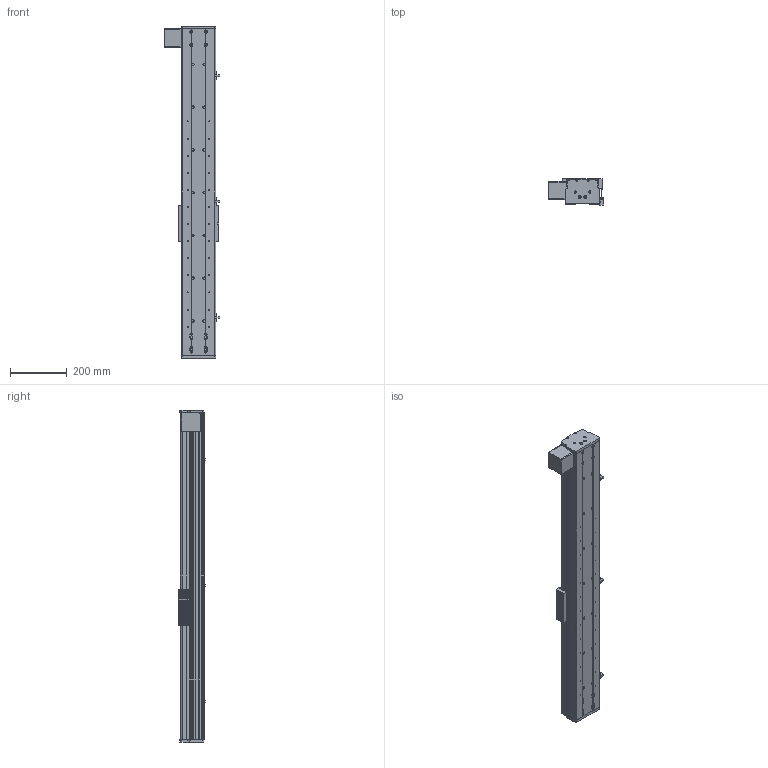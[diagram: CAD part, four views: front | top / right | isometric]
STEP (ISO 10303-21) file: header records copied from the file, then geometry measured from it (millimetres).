
FILE_DESCRIPTION (( 'STEP AP214' ), '1' );
FILE_NAME ('CF120B-D-850-FW.STEP', '2020-01-15T07:29:16', ( '微软用户' ), ( '微软中国' ), 'SwSTEP 2.0', 'SolidWorks 2016', '' );
FILE_SCHEMA (( 'AUTOMOTIVE_DESIGN' ));
Length unit declared in the file: millimetre
Products named in the file (14): EGR15絳寢-850; EGH-15-CABZnew; CF120B臏倰第-850; CF120B-D-850-FW; 嫖萇羲壽; 75-86-95癹弇羲壽覜茼え; 6060-3232源臏奪-植雄釱; 6060-3232源臏奪-萇儂釱; 6060-3232源臏奪-翋雄釱; CF120B耜啣萇儂傷; CF120B耜啣; CF120B裔啣-850; CF120B賑雄啣; CF120-B賑雄輸
Assembly tree (19 placements, depth 2):
  CF120B-D-850-FW
    CF120B臏倰第-850
    EGH-15-CABZnew  x4
    EGR15絳寢-850  x2
    CF120-B賑雄輸
    CF120B賑雄啣
    CF120B裔啣-850
    CF120B耜啣
    CF120B耜啣萇儂傷
    6060-3232源臏奪-翋雄釱
    6060-3232源臏奪-萇儂釱
    6060-3232源臏奪-植雄釱
    75-86-95癹弇羲壽覜茼え
    嫖萇羲壽  x3
Bounding box: 193.1 x 93.85 x 1165 mm (x, y, z)
Volume: 4678683.2 mm3; surface area: 1672717.7 mm2
Topology: 15 solids, 67 shells, 7407 faces, 28010 edges, 19272 vertices
Faces by surface type: plane 3632, bspline 2348, cylinder 1075, cone 128, torus 128, sphere 96
Entity records: 134322 total; most frequent: CARTESIAN_POINT 42605, ORIENTED_EDGE 15992, DIRECTION 12801, EDGE_CURVE 9120, VERTEX_POINT 6237, VECTOR 5331, LINE 5331, AXIS2_PLACEMENT_3D 3735
